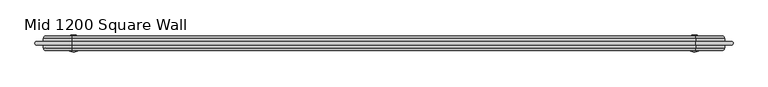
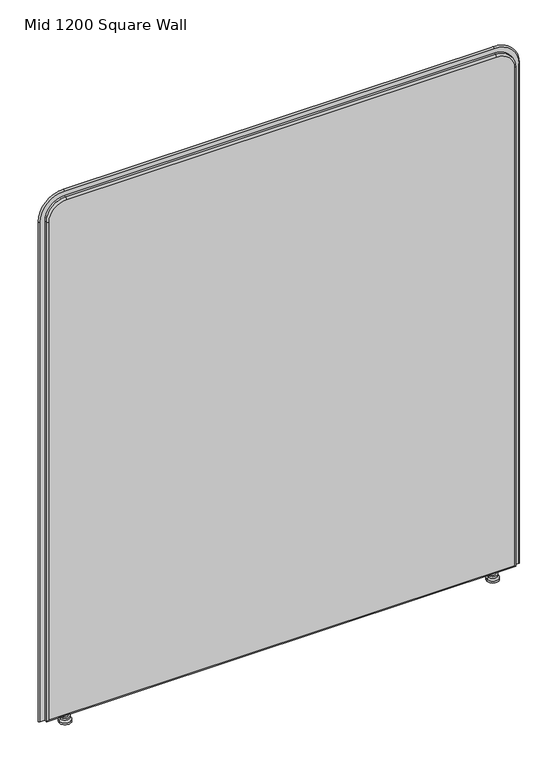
"""IFC4 building model written with IfcOpenShell, lengths in millimetres: furniture geometry, DBLTD_Sixteen3_PrivacyScreens_Artus_Square : Mid 1200 Square Wall."""

import ifcopenshell
import ifcopenshell.guid

model = None  # the IFC model being written
_history = None  # IfcOwnerHistory: only IFC2X3 demands one
_inside = {}  # id of a spatial element -> (the spatial element, [elements in it])
_under = {}  # id of a project, library or spatial element -> (it, [spatial elements below it])
_declared = {}  # id of a project -> (the project, [libraries it declares])
_typed = {}  # id of a type object -> (the type object, [elements of that type])
_made_of = {}  # id of a material, layer set ... -> (it, [elements and type objects made of it])


def new_model(schema):
    """Start an empty IFC model of exactly this schema.

    Asked for "IFC4X3", IfcOpenShell would pick the latest addendum, in which some entities
    have other attributes; the version numbers below select the first issue.
    IFC2X3 requires an IfcOwnerHistory on every rooted entity: one is made here for all.
    """
    global model, _history
    if schema == "IFC4X3":
        model = ifcopenshell.file(schema_version=(4, 3, 0, 0))
    else:
        model = ifcopenshell.file(schema=schema)
    _inside.clear()
    _under.clear()
    _declared.clear()
    _typed.clear()
    _made_of.clear()
    _history = None
    if model.schema == "IFC2X3":
        org = make("IfcOrganization", Name="unknown")
        user = make(
            "IfcPersonAndOrganization",
            ThePerson=make("IfcPerson", FamilyName="unknown"),
            TheOrganization=org,
        )
        app = make(
            "IfcApplication",
            ApplicationDeveloper=org,
            Version="unknown",
            ApplicationFullName="unknown",
            ApplicationIdentifier="unknown",
        )
        _history = make(
            "IfcOwnerHistory",
            OwningUser=user,
            OwningApplication=app,
            ChangeAction="ADDED",
            CreationDate=0,
        )
    return model


def make(cls, **values):
    """One entity of the class cls with the attributes given. An attribute that is None is left unset."""
    return model.create_entity(
        cls, **{name: value for name, value in values.items() if value is not None}
    )


def rooted(cls, **values):
    """An entity with a GlobalId (a new one), such as an element, a storey or a relation."""
    return make(cls, GlobalId=ifcopenshell.guid.new(), OwnerHistory=_history, **values)


def si_unit(unit_type, name, prefix=None):
    """IfcSIUnit, for example si_unit("LENGTHUNIT", "METRE", prefix="MILLI")."""
    return make("IfcSIUnit", UnitType=unit_type, Prefix=prefix, Name=name)


def assignment(units):
    """IfcUnitAssignment: the units of a project."""
    return None if units is None else make("IfcUnitAssignment", Units=units)


def point(xyz):
    """IfcCartesianPoint."""
    return None if xyz is None else make("IfcCartesianPoint", Coordinates=xyz)


def direction(xyz):
    """IfcDirection."""
    return None if xyz is None else make("IfcDirection", DirectionRatios=xyz)


def frame(location, z_axis=None, x_axis=None):
    """IfcAxis2Placement3D, a coordinate frame: its origin and axes. An axis left out is left unset."""
    return make(
        "IfcAxis2Placement3D",
        Location=point(location),
        Axis=direction(z_axis),
        RefDirection=direction(x_axis),
    )


def origin():
    """The frame at (0, 0, 0) with its axes left unset."""
    return frame((0.0, 0.0, 0.0))


def place(relative_to, where):
    """IfcLocalPlacement: puts the frame where relative to a parent placement (None: the world)."""
    return make(
        "IfcLocalPlacement", PlacementRelTo=relative_to, RelativePlacement=where
    )


def context(
    kind, dimensions, precision=None, world=None, true_north=None, identifier=None
):
    """IfcGeometricRepresentationContext, for example the 3D "Model" context."""
    return make(
        "IfcGeometricRepresentationContext",
        ContextIdentifier=identifier,
        ContextType=kind,
        CoordinateSpaceDimension=dimensions,
        Precision=precision,
        WorldCoordinateSystem=world,
        TrueNorth=true_north,
    )


def project(units=None, contexts=None):
    """IfcProject with its units and contexts."""
    return rooted(
        "IfcProject",
        Name="project",
        RepresentationContexts=contexts,
        UnitsInContext=assignment(units),
    )


def spatial(cls, under=None, at=None, **own):
    """A site, building, storey or space (cls), placed at a placement, below another one or the project."""
    s = rooted(cls, ObjectPlacement=at, **own)
    if under is not None:
        _under.setdefault(under.id(), (under, []))[1].append(s)
    return s


def polyline(points):
    """IfcPolyline through the points."""
    return make("IfcPolyline", Points=[point(p) for p in points])


def circle_curve(where, radius):
    """IfcCircle in the frame where."""
    return make("IfcCircle", Position=where, Radius=radius)


def ellipse_curve(where, semi_axis1, semi_axis2):
    """IfcEllipse in the frame where."""
    return make(
        "IfcEllipse", Position=where, SemiAxis1=semi_axis1, SemiAxis2=semi_axis2
    )


def trimmed(basis, trim1, trim2, sense, master):
    """IfcTrimmedCurve: the piece of a basis curve between two trims."""
    return make(
        "IfcTrimmedCurve",
        BasisCurve=basis,
        Trim1=trim1,
        Trim2=trim2,
        SenseAgreement=sense,
        MasterRepresentation=master,
    )


def shape(context_of_items, identifier, shape_type, items):
    """IfcShapeRepresentation: the items that make up one representation, for example the "Body"."""
    return make(
        "IfcShapeRepresentation",
        ContextOfItems=context_of_items,
        RepresentationIdentifier=identifier,
        RepresentationType=shape_type,
        Items=items,
    )


def source(mapping_origin, context_of_items, identifier, shape_type, items):
    """IfcRepresentationMap: a shape defined once, which mapped items show again and again."""
    return make(
        "IfcRepresentationMap",
        MappingOrigin=mapping_origin,
        MappedRepresentation=shape(context_of_items, identifier, shape_type, items),
    )


def transform(
    local_origin,
    x_axis=None,
    y_axis=None,
    z_axis=None,
    scale=None,
    scale2=None,
    scale3=None,
    uniform=True,
):
    """IfcCartesianTransformationOperator3D, or its non-uniform kind. x_axis, y_axis, z_axis: its Axis1, 2, 3."""
    if uniform:
        return make(
            "IfcCartesianTransformationOperator3D",
            Axis1=direction(x_axis),
            Axis2=direction(y_axis),
            LocalOrigin=point(local_origin),
            Scale=scale,
            Axis3=direction(z_axis),
        )
    return make(
        "IfcCartesianTransformationOperator3DnonUniform",
        Axis1=direction(x_axis),
        Axis2=direction(y_axis),
        LocalOrigin=point(local_origin),
        Scale=scale,
        Axis3=direction(z_axis),
        Scale2=scale2,
        Scale3=scale3,
    )


def mapped(mapping_source, mapping_target):
    """IfcMappedItem: shows the shape of a source again, moved by a transform."""
    return make(
        "IfcMappedItem", MappingSource=mapping_source, MappingTarget=mapping_target
    )


def made_of(thing, what):
    """Note that an element or type object is made of a material, layer set ...; save() writes the relation."""
    if what is not None:
        _made_of.setdefault(what.id(), (what, []))[1].append(thing)
    return thing


def element(
    cls,
    number,
    at=None,
    inside=None,
    cuts=None,
    type_object=None,
    material=None,
    context=None,
    identifier="Body",
    shape_type=None,
    held_by="IfcProductDefinitionShape",
    body=None,
    shapes=None,
    **own,
):
    """One element of the class cls, such as IfcWall. Its Tag is "e" and its number.

    at: its placement. inside: the storey or other place that contains it. cuts: it is an
    opening in that element (IfcRelVoidsElement). A single representation is given by context,
    identifier, shape_type and body (its items); several are given by shapes. held_by: the class
    of the entity that holds the representations. save() writes the other relations.
    """
    e = rooted(cls, Tag="e%d" % number, ObjectPlacement=at, **own)
    if body is not None:
        shapes = [shape(context, identifier, shape_type, body)]
    if shapes is not None:
        e.Representation = make(held_by, Representations=shapes)
    if inside is not None:
        _inside.setdefault(inside.id(), (inside, []))[1].append(e)
    if cuts is not None:
        rooted(
            "IfcRelVoidsElement", RelatingBuildingElement=cuts, RelatedOpeningElement=e
        )
    if type_object is not None:
        _typed.setdefault(type_object.id(), (type_object, []))[1].append(e)
    return made_of(e, material)


def aggregate(whole, parts):
    """IfcRelAggregates: a whole, such as a stair, and the parts it consists of."""
    return rooted("IfcRelAggregates", RelatingObject=whole, RelatedObjects=parts)


def save(model, path):
    """Write the relations noted so far, then the file.

    IfcRelAggregates (storeys below a building ...), IfcRelContainedInSpatialStructure (elements
    in a storey), IfcRelDefinesByType, IfcRelAssociatesMaterial and IfcRelDeclares: one each for
    every whole, place, type object, material and project.
    """
    for whole, parts in _under.values():
        aggregate(whole, parts)
    for where, things in _inside.values():
        rooted(
            "IfcRelContainedInSpatialStructure",
            RelatedElements=things,
            RelatingStructure=where,
        )
    for kind, things in _typed.values():
        rooted("IfcRelDefinesByType", RelatedObjects=things, RelatingType=kind)
    for what, things in _made_of.values():
        rooted("IfcRelAssociatesMaterial", RelatedObjects=things, RelatingMaterial=what)
    for by, libraries in _declared.values():
        rooted("IfcRelDeclares", RelatingContext=by, RelatedDefinitions=libraries)
    model.write(path)


def plane_surface(at):
    """IfcPlane: the flat surface through the origin of the frame at, square to its z axis."""
    return make("IfcPlane", Position=at)


def cylinder_surface(at, radius):
    """IfcCylindricalSurface: all points at the distance radius from the z axis of the frame at."""
    return make("IfcCylindricalSurface", Position=at, Radius=radius)


def revolved_surface(curve, axis_point, axis_direction):
    """IfcSurfaceOfRevolution: the curve turned about the line through axis_point along axis_direction."""
    return make(
        "IfcSurfaceOfRevolution",
        SweptCurve=make("IfcArbitraryOpenProfileDef", ProfileType="CURVE", Curve=curve),
        AxisPosition=make("IfcAxis1Placement", Location=point(axis_point), Axis=direction(axis_direction)),
    )


def advanced_brep(points, edges, surfaces, faces):
    """IfcAdvancedBrep: a solid bounded by faces that lie on surfaces and meet in shared edges.

    An edge is (start, end): straight between two places in points (the first is 0);
    or (start, end, curve); or (start, end, curve, False) where it runs against its curve.
    A face is (place in surfaces, loops), or (place, loops, False) where it looks against
    its surface's normal. A loop lists edges by number (the first is 1), with a minus sign
    where the edge is run from its end to its start. The first loop is the outer one.
    """
    corners = [point(p) for p in points]
    vertices = [make("IfcVertexPoint", VertexGeometry=c) for c in corners]
    made = []
    for start, end, *more in edges:
        made.append(
            make(
                "IfcEdgeCurve",
                EdgeStart=vertices[start],
                EdgeEnd=vertices[end],
                EdgeGeometry=more[0] if more else make("IfcPolyline", Points=[corners[start], corners[end]]),
                SameSense=more[1] if len(more) > 1 else True,
            )
        )
    hull = []
    for where, loops, *sense in faces:
        bounds = []
        for j, loop in enumerate(loops):
            ring = [make("IfcOrientedEdge", EdgeElement=made[abs(k) - 1], Orientation=k > 0) for k in loop]
            bounds.append(
                make(
                    "IfcFaceOuterBound" if j == 0 else "IfcFaceBound",
                    Bound=make("IfcEdgeLoop", EdgeList=ring),
                    Orientation=True,
                )
            )
        hull.append(make("IfcAdvancedFace", Bounds=bounds, FaceSurface=surfaces[where], SameSense=sense[0] if sense else True))
    return make("IfcAdvancedBrep", Outer=make("IfcClosedShell", CfsFaces=hull))


def mid_1200_square_wall_a06490c5(model_context):
    return source(origin(), model_context, "Body", "AdvancedBrep", [
        advanced_brep(
        [(542.2938623, 820.0, 22.0), (549.2938623, 820.0, 22.0), (535.2938623, 820.0, 22.0), (549.2938623, 820.0, 15.0), (535.2938623, 820.0, 15.0), (553.744562, 820.0, 15.0), (530.8431626, 820.0, 15.0), (553.744562, 820.0, 10.0), (530.8431626, 820.0, 10.0), (557.2938623, 820.0, 5.0), (527.2938623, 820.0, 5.0), (557.2938623, 820.0, 0.0), (527.2938623, 820.0, 0.0), (542.2938623, 820.0, 0.0)],
        [
            (0, 1),
            (1, 2, circle_curve(frame((542.2938623, 820.0, 22.0), z_axis=(0.0, 0.0, 1.0), x_axis=(1.0, 0.0, 0.0)), 7.0)),
            (2, 0),
            (2, 1, circle_curve(frame((542.2938623, 820.0, 22.0), z_axis=(0.0, 0.0, 1.0), x_axis=(1.0, 0.0, 0.0)), 7.0)),
            (1, 3),
            (3, 4, circle_curve(frame((542.2938623, 820.0, 15.0), z_axis=(0.0, 0.0, 1.0), x_axis=(1.0, 0.0, 0.0)), 7.0)),
            (4, 2),
            (4, 3, circle_curve(frame((542.2938623, 820.0, 15.0), z_axis=(0.0, 0.0, 1.0), x_axis=(1.0, 0.0, 0.0)), 7.0)),
            (3, 5),
            (5, 6, circle_curve(frame((542.2938623, 820.0, 15.0), z_axis=(0.0, 0.0, 1.0), x_axis=(1.0, 0.0, 0.0)), 11.4506997)),
            (6, 4),
            (6, 5, circle_curve(frame((542.2938623, 820.0, 15.0), z_axis=(0.0, 0.0, 1.0), x_axis=(1.0, 0.0, 0.0)), 11.4506997)),
            (5, 7),
            (7, 8, circle_curve(frame((542.2938623, 820.0, 10.0), z_axis=(0.0, 0.0, 1.0), x_axis=(1.0, 0.0, 0.0)), 11.4506997)),
            (8, 6),
            (8, 7, circle_curve(frame((542.2938623, 820.0, 10.0), z_axis=(0.0, 0.0, 1.0), x_axis=(1.0, 0.0, 0.0)), 11.4506997)),
            (7, 9),
            (9, 10, circle_curve(frame((542.2938623, 820.0, 5.0), z_axis=(0.0, 0.0, 1.0), x_axis=(1.0, 0.0, 0.0)), 15.0)),
            (10, 8),
            (10, 9, circle_curve(frame((542.2938623, 820.0, 5.0), z_axis=(0.0, 0.0, 1.0), x_axis=(1.0, 0.0, 0.0)), 15.0)),
            (9, 11),
            (11, 12, circle_curve(frame((542.2938623, 820.0, 0.0), z_axis=(0.0, 0.0, 1.0), x_axis=(1.0, 0.0, 0.0)), 15.0)),
            (12, 10),
            (12, 11, circle_curve(frame((542.2938623, 820.0, 0.0), z_axis=(0.0, 0.0, 1.0), x_axis=(1.0, 0.0, 0.0)), 15.0)),
            (11, 13),
            (13, 12),
        ],
        [
            plane_surface(frame((542.2938623, 820.0, 22.0), z_axis=(0.0, 0.0, 1.0), x_axis=(1.0, 0.0, 0.0))),
            cylinder_surface(frame((542.2938623, 820.0, 5.0), z_axis=(0.0, 0.0, 1.0), x_axis=(1.0, 0.0, 0.0)), 7.0),
            plane_surface(frame((542.2938623, 820.0, 15.0), z_axis=(0.0, 0.0, 1.0), x_axis=(1.0, 0.0, 0.0))),
            cylinder_surface(frame((542.2938623, 820.0, 5.0), z_axis=(0.0, 0.0, 1.0), x_axis=(1.0, 0.0, 0.0)), 11.4506997),
            revolved_surface(polyline([(557.2938623, 820.0, 5.0), (553.744562, 820.0, 10.0)]), (542.2938623, 820.0, 5.0), (0.0, 0.0, 1.0)),
            cylinder_surface(frame((542.2938623, 820.0, 5.0), z_axis=(0.0, 0.0, 1.0), x_axis=(1.0, 0.0, 0.0)), 15.0),
            plane_surface(frame((542.2938623, 820.0, 0.0), z_axis=(0.0, 0.0, -1.0), x_axis=(1.0, 0.0, 0.0))),
        ],
        [
            (0, [[1, 2, 3]]),
            (0, [[-3, 4, -1]]),
            (1, [[-2, 5, 6, 7]]),
            (1, [[-4, -7, 8, -5]]),
            (2, [[-6, 9, 10, 11]]),
            (2, [[-8, -11, 12, -9]]),
            (3, [[-10, 13, 14, 15]]),
            (3, [[-12, -15, 16, -13]]),
            (4, [[-14, 17, 18, 19]]),
            (4, [[-16, -19, 20, -17]]),
            (5, [[-18, 21, 22, 23]]),
            (5, [[-20, -23, 24, -21]]),
            (6, [[-22, 25, 26]]),
            (6, [[-24, -26, -25]]),
        ],
    ),
        advanced_brep(
        [(-535.2938623, 820.0, 22.0), (-549.2938623, 820.0, 22.0), (-542.2938623, 820.0, 22.0), (-535.2938623, 820.0, 15.0), (-549.2938623, 820.0, 15.0), (-530.8431626, 820.0, 15.0), (-553.744562, 820.0, 15.0), (-530.8431626, 820.0, 10.0), (-553.744562, 820.0, 10.0), (-527.2938623, 820.0, 5.0), (-557.2938623, 820.0, 5.0), (-527.2938623, 820.0, 0.0), (-557.2938623, 820.0, 0.0), (-542.2938623, 820.0, 0.0)],
        [
            (0, 1, circle_curve(frame((-542.2938623, 820.0, 22.0), z_axis=(0.0, 0.0, 1.0), x_axis=(-1.0, 0.0, 0.0)), 7.0)),
            (1, 2),
            (2, 0),
            (1, 0, circle_curve(frame((-542.2938623, 820.0, 22.0), z_axis=(0.0, 0.0, 1.0), x_axis=(-1.0, 0.0, 0.0)), 7.0)),
            (3, 4, circle_curve(frame((-542.2938623, 820.0, 15.0), z_axis=(0.0, 0.0, 1.0), x_axis=(-1.0, 0.0, 0.0)), 7.0)),
            (4, 1),
            (0, 3),
            (4, 3, circle_curve(frame((-542.2938623, 820.0, 15.0), z_axis=(0.0, 0.0, 1.0), x_axis=(-1.0, 0.0, 0.0)), 7.0)),
            (5, 6, circle_curve(frame((-542.2938623, 820.0, 15.0), z_axis=(0.0, 0.0, 1.0), x_axis=(-1.0, 0.0, 0.0)), 11.4506997)),
            (6, 4),
            (3, 5),
            (6, 5, circle_curve(frame((-542.2938623, 820.0, 15.0), z_axis=(0.0, 0.0, 1.0), x_axis=(-1.0, 0.0, 0.0)), 11.4506997)),
            (7, 8, circle_curve(frame((-542.2938623, 820.0, 10.0), z_axis=(0.0, 0.0, 1.0), x_axis=(-1.0, 0.0, 0.0)), 11.4506997)),
            (8, 6),
            (5, 7),
            (8, 7, circle_curve(frame((-542.2938623, 820.0, 10.0), z_axis=(0.0, 0.0, 1.0), x_axis=(-1.0, 0.0, 0.0)), 11.4506997)),
            (9, 10, circle_curve(frame((-542.2938623, 820.0, 5.0), z_axis=(0.0, 0.0, 1.0), x_axis=(-1.0, 0.0, 0.0)), 15.0)),
            (10, 8),
            (7, 9),
            (10, 9, circle_curve(frame((-542.2938623, 820.0, 5.0), z_axis=(0.0, 0.0, 1.0), x_axis=(-1.0, 0.0, 0.0)), 15.0)),
            (11, 12, circle_curve(frame((-542.2938623, 820.0, 0.0), z_axis=(0.0, 0.0, 1.0), x_axis=(-1.0, 0.0, 0.0)), 15.0)),
            (12, 10),
            (9, 11),
            (12, 11, circle_curve(frame((-542.2938623, 820.0, 0.0), z_axis=(0.0, 0.0, 1.0), x_axis=(-1.0, 0.0, 0.0)), 15.0)),
            (13, 12),
            (11, 13),
        ],
        [
            plane_surface(frame((-542.2938623, 820.0, 22.0), z_axis=(0.0, 0.0, 1.0), x_axis=(-1.0, 0.0, 0.0))),
            cylinder_surface(frame((-542.2938623, 820.0, 5.0), z_axis=(0.0, 0.0, -1.0), x_axis=(-1.0, 0.0, 0.0)), 7.0),
            plane_surface(frame((-542.2938623, 820.0, 15.0), z_axis=(0.0, 0.0, 1.0), x_axis=(-1.0, 0.0, 0.0))),
            cylinder_surface(frame((-542.2938623, 820.0, 5.0), z_axis=(0.0, 0.0, -1.0), x_axis=(-1.0, 0.0, 0.0)), 11.4506997),
            revolved_surface(polyline([(-553.744562, 820.0, 10.0), (-557.2938623, 820.0, 5.0)]), (-542.2938623, 820.0, 5.0), (0.0, 0.0, -1.0)),
            cylinder_surface(frame((-542.2938623, 820.0, 5.0), z_axis=(0.0, 0.0, -1.0), x_axis=(-1.0, 0.0, 0.0)), 15.0),
            plane_surface(frame((-542.2938623, 820.0, 0.0), z_axis=(0.0, 0.0, -1.0), x_axis=(-1.0, 0.0, 0.0))),
        ],
        [
            (0, [[1, 2, 3]]),
            (0, [[4, -3, -2]]),
            (1, [[5, 6, -1, 7]]),
            (1, [[8, -7, -4, -6]]),
            (2, [[9, 10, -5, 11]]),
            (2, [[12, -11, -8, -10]]),
            (3, [[13, 14, -9, 15]]),
            (3, [[16, -15, -12, -14]]),
            (4, [[17, 18, -13, 19]]),
            (4, [[20, -19, -16, -18]]),
            (5, [[21, 22, -17, 23]]),
            (5, [[24, -23, -20, -22]]),
            (6, [[25, -21, 26]]),
            (6, [[-26, -24, -25]]),
        ],
    ),
        advanced_brep(
        [(-590.0, 807.0, 27.0), (590.0, 807.0, 27.0), (590.0, 807.0, 1360.0), (545.0, 807.0, 1405.0), (-545.0, 807.0, 1405.0), (-590.0, 807.0, 1360.0), (590.0, 833.0, 27.0), (-590.0, 833.0, 27.0), (-590.0, 833.0, 1360.0), (-545.0, 833.0, 1405.0), (545.0, 833.0, 1405.0), (590.0, 833.0, 1360.0), (545.0, 811.9999948, 1410.0), (545.0, 828.0, 1410.0), (-545.0, 828.0, 1410.0), (-545.0, 812.0, 1410.0), (-595.0, 828.0, 1360.0), (-595.0, 811.9999935, 1360.0), (-595.0, 828.0, 22.0), (-595.0, 812.0, 22.0), (595.0, 828.0, 22.0), (595.0, 812.0, 22.0), (595.0, 828.0, 1360.0), (595.0, 812.0, 1360.0)],
        [
            (0, 1),
            (1, 2),
            (2, 3, circle_curve(frame((545.0, 807.0, 1360.0), z_axis=(0.0, -1.0, 0.0), x_axis=(1.0, 0.0, 0.0)), 45.0)),
            (3, 4),
            (4, 5, circle_curve(frame((-545.0, 807.0, 1360.0), z_axis=(0.0, -1.0, 0.0), x_axis=(0.0, 0.0, 1.0)), 45.0)),
            (5, 0),
            (6, 7),
            (7, 8),
            (8, 9, circle_curve(frame((-545.0, 833.0, 1360.0), z_axis=(0.0, 1.0, 0.0), x_axis=(0.0, 0.0, 1.0)), 45.0)),
            (9, 10),
            (10, 11, circle_curve(frame((545.0, 833.0, 1360.0), z_axis=(0.0, 1.0, 0.0), x_axis=(1.0, 0.0, 0.0)), 45.0)),
            (11, 6),
            (12, 13),
            (13, 14),
            (14, 15),
            (15, 12),
            (14, 16, circle_curve(frame((-545.0, 828.0, 1360.0), z_axis=(0.0, -1.0, 0.0), x_axis=(1.0, 0.0, 0.0)), 50.0)),
            (16, 17),
            (17, 15, circle_curve(frame((-545.0, 812.0, 1360.0), z_axis=(0.0, 1.0, 0.0), x_axis=(1.0, 0.0, 0.0)), 50.0)),
            (16, 18),
            (18, 19),
            (19, 17),
            (18, 20),
            (20, 21),
            (21, 19),
            (20, 22),
            (22, 23),
            (23, 21),
            (12, 23, circle_curve(frame((545.0, 812.0, 1360.0), z_axis=(0.0, 1.0, 0.0), x_axis=(1.0, 0.0, 0.0)), 50.0)),
            (22, 13, circle_curve(frame((545.0, 828.0, 1360.0), z_axis=(0.0, -1.0, 0.0), x_axis=(1.0, 0.0, 0.0)), 50.0)),
            (21, 1, ellipse_curve(frame((590.0, 812.0, 27.0), z_axis=(-0.7071067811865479, 0.0, -0.707106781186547), x_axis=(0.7071067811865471, 0.0, -0.7071067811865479)), 7.0710678, 5.0)),
            (0, 19, ellipse_curve(frame((-590.0, 812.0, 27.0), z_axis=(0.7071067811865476, 0.0, -0.7071067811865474), x_axis=(0.7071067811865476, 0.0, 0.7071067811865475)), 7.0710678, 5.0)),
            (6, 20, ellipse_curve(frame((590.0, 828.0, 27.0), z_axis=(-0.7071067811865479, 0.0, -0.707106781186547), x_axis=(0.7071067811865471, 0.0, -0.7071067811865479)), 7.0710678, 5.0)),
            (18, 7, ellipse_curve(frame((-590.0, 828.0, 27.0), z_axis=(0.7071067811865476, 0.0, -0.7071067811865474), x_axis=(0.7071067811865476, 0.0, 0.7071067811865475)), 7.0710678, 5.0)),
            (23, 2, circle_curve(frame((590.0, 812.0, 1360.0), z_axis=(0.0, 0.0, -1.0), x_axis=(1.0, 0.0, 0.0)), 5.0)),
            (11, 22, circle_curve(frame((590.0, 828.0, 1360.0), z_axis=(0.0, 0.0, -1.0), x_axis=(1.0, 0.0, 0.0)), 5.0)),
            (12, 3, circle_curve(frame((545.0, 812.0, 1405.0), z_axis=(1.0, 0.0, 0.0), x_axis=(0.0, 0.0, 1.0)), 5.0)),
            (10, 13, circle_curve(frame((545.0, 828.0, 1405.0), z_axis=(1.0, 0.0, 0.0), x_axis=(0.0, 0.0, 1.0)), 5.0)),
            (15, 4, circle_curve(frame((-545.0, 812.0, 1405.0), z_axis=(1.0, 0.0, 0.0), x_axis=(0.0, 0.0, 1.0)), 5.0)),
            (9, 14, circle_curve(frame((-545.0, 828.0, 1405.0), z_axis=(1.0, 0.0, 0.0), x_axis=(0.0, 0.0, 1.0)), 5.0)),
            (17, 5, circle_curve(frame((-590.0, 812.0, 1360.0), z_axis=(0.0, 0.0, 1.0), x_axis=(-1.0, 0.0, 0.0)), 5.0)),
            (8, 16, circle_curve(frame((-590.0, 828.0, 1360.0), z_axis=(0.0, 0.0, 1.0), x_axis=(-1.0, 0.0, 0.0)), 5.0)),
        ],
        [
            plane_surface(frame((-545.0, 807.0, 1410.0), z_axis=(0.0, -1.0, 0.0), x_axis=(-1.0, 0.0, 0.0))),
            plane_surface(frame((-545.0, 833.0, 1410.0), z_axis=(0.0, 1.0, 0.0), x_axis=(1.0, 0.0, 0.0))),
            plane_surface(frame((545.0, 807.0, 1410.0), z_axis=(0.0, 0.0, 1.0), x_axis=(0.0, 1.0, 0.0))),
            cylinder_surface(frame((-545.0, 833.0, 1360.0), z_axis=(0.0, -1.0, 0.0), x_axis=(1.0, 0.0, 0.0)), 50.0),
            plane_surface(frame((-595.0, 807.0, 1360.0), z_axis=(-1.0, 0.0, 0.0), x_axis=(0.0, 1.0, 0.0))),
            plane_surface(frame((-595.0, 807.0, 22.0), z_axis=(0.0, 0.0, -1.0), x_axis=(0.0, 1.0, 0.0))),
            plane_surface(frame((595.0, 807.0, 22.0), z_axis=(1.0, 0.0, 0.0), x_axis=(0.0, 1.0, 0.0))),
            cylinder_surface(frame((545.0, 833.0, 1360.0), z_axis=(0.0, -1.0, 0.0), x_axis=(1.0, 0.0, 0.0)), 50.0),
            cylinder_surface(frame((-595.0, 812.0, 27.0), z_axis=(1.0, 0.0, 0.0), x_axis=(0.0, 0.0, -1.0)), 5.0),
            cylinder_surface(frame((-595.0, 828.0, 27.0), z_axis=(1.0, 0.0, 0.0), x_axis=(0.0, 0.0, -1.0)), 5.0),
            cylinder_surface(frame((590.0, 812.0, 22.0), z_axis=(0.0, 0.0, 1.0), x_axis=(1.0, 0.0, 0.0)), 5.0),
            cylinder_surface(frame((590.0, 828.0, 22.0), z_axis=(0.0, 0.0, 1.0), x_axis=(1.0, 0.0, 0.0)), 5.0),
            revolved_surface(trimmed(ellipse_curve(frame((590.0, 812.0, 1360.0), z_axis=(0.0, 0.0, -1.0), x_axis=(1.0, 0.0, 0.0)), 5.0, 5.0), [point((595.0, 812.0, 1360.0))], [point((590.0, 807.0, 1360.0))], True, "CARTESIAN"), (545.0, 807.0, 1360.0), (0.0, -1.0, 0.0)),
            revolved_surface(trimmed(ellipse_curve(frame((590.0, 828.0, 1360.0), z_axis=(0.0, 0.0, -1.0), x_axis=(1.0, 0.0, 0.0)), 5.0, 5.0), [point((590.0, 833.0, 1360.0))], [point((595.0, 828.0, 1360.0))], True, "CARTESIAN"), (545.0, 807.0, 1360.0), (0.0, -1.0, 0.0)),
            cylinder_surface(frame((545.0, 812.0, 1405.0), z_axis=(-1.0, 0.0, 0.0), x_axis=(0.0, 0.0, 1.0)), 5.0),
            cylinder_surface(frame((545.0, 828.0, 1405.0), z_axis=(-1.0, 0.0, 0.0), x_axis=(0.0, 0.0, 1.0)), 5.0),
            revolved_surface(trimmed(ellipse_curve(frame((-545.0, 812.0, 1405.0), z_axis=(1.0, 0.0, 0.0), x_axis=(0.0, 0.0, 1.0)), 5.0, 5.0), [point((-545.0, 812.0, 1410.0))], [point((-545.0, 807.0, 1405.0))], True, "CARTESIAN"), (-545.0, 807.0, 1360.0), (0.0, -1.0, 0.0)),
            revolved_surface(trimmed(ellipse_curve(frame((-545.0, 828.0, 1405.0), z_axis=(1.0, 0.0, 0.0), x_axis=(0.0, 0.0, 1.0)), 5.0, 5.0), [point((-545.0, 833.0, 1405.0))], [point((-545.0, 828.0, 1410.0))], True, "CARTESIAN"), (-545.0, 807.0, 1360.0), (0.0, -1.0, 0.0)),
            cylinder_surface(frame((-590.0, 812.0, 1360.0), z_axis=(0.0, 0.0, -1.0), x_axis=(-1.0, 0.0, 0.0)), 5.0),
            cylinder_surface(frame((-590.0, 828.0, 1360.0), z_axis=(0.0, 0.0, -1.0), x_axis=(-1.0, 0.0, 0.0)), 5.0),
        ],
        [
            (0, [[1, 2, 3, 4, 5, 6]]),
            (1, [[7, 8, 9, 10, 11, 12]]),
            (2, [[13, 14, 15, 16]]),
            (3, [[-15, 17, 18, 19]]),
            (4, [[-18, 20, 21, 22]]),
            (5, [[-21, 23, 24, 25]]),
            (6, [[-24, 26, 27, 28]]),
            (7, [[-13, 29, -27, 30]]),
            (8, [[31, -1, 32, -25]]),
            (9, [[33, -23, 34, -7]]),
            (10, [[-31, -28, 35, -2]]),
            (11, [[-33, -12, 36, -26]]),
            (12, [[-35, -29, 37, -3]]),
            (13, [[-36, -11, 38, -30]]),
            (14, [[-37, -16, 39, -4]]),
            (15, [[-38, -10, 40, -14]]),
            (16, [[-39, -19, 41, -5]]),
            (17, [[-40, -9, 42, -17]]),
            (18, [[-32, -6, -41, -22]]),
            (19, [[-34, -20, -42, -8]]),
        ],
    ),
        advanced_brep(
        [(606.9577057, 823.0, 22.0), (606.9577057, 817.0, 22.0), (595.0, 817.0, 22.0), (595.0, 823.0, 22.0), (606.9577057, 823.0, 1360.0), (606.9577057, 817.0, 1360.0), (545.0, 817.0, 1421.9577057), (-545.0, 817.0, 1421.9577057), (-606.9577057, 817.0, 1360.0), (-606.9577057, 817.0, 22.0), (-595.0, 817.0, 22.0), (-595.0, 817.0, 1360.0), (-545.0, 817.0, 1410.0), (545.0, 817.0, 1410.0), (595.0, 817.0, 1360.0), (595.0, 823.0, 1360.0), (545.0, 823.0, 1410.0), (-545.0, 823.0, 1410.0), (-595.0, 823.0, 1360.0), (-595.0, 823.0, 22.0), (-606.9577057, 823.0, 22.0), (-606.9577057, 823.0, 1360.0), (-545.0, 823.0, 1421.9577057), (545.0, 823.0, 1421.9577057)],
        [
            (0, 1, circle_curve(frame((606.9577057, 820.0, 22.0), z_axis=(0.0, 0.0, -1.0), x_axis=(1.0, 0.0, 0.0)), 3.0)),
            (1, 2),
            (2, 3),
            (3, 0),
            (0, 4),
            (4, 5, circle_curve(frame((606.9577057, 820.0, 1360.0), z_axis=(0.0, 0.0, -1.0), x_axis=(1.0, 0.0, 0.0)), 3.0)),
            (5, 1),
            (5, 6, circle_curve(frame((545.0, 817.0, 1360.0), z_axis=(0.0, -1.0, 0.0), x_axis=(1.0, 0.0, 0.0)), 61.9577057)),
            (6, 7),
            (7, 8, circle_curve(frame((-545.0, 817.0, 1360.0), z_axis=(0.0, -1.0, 0.0), x_axis=(0.0, 0.0, 1.0)), 61.9577057)),
            (8, 9),
            (9, 10),
            (10, 11),
            (11, 12, circle_curve(frame((-545.0, 817.0, 1360.0), z_axis=(0.0, 1.0, 0.0), x_axis=(0.0, 0.0, 1.0)), 50.0)),
            (12, 13),
            (13, 14, circle_curve(frame((545.0, 817.0, 1360.0), z_axis=(0.0, 1.0, 0.0), x_axis=(1.0, 0.0, 0.0)), 50.0)),
            (14, 2),
            (14, 15),
            (15, 3),
            (15, 16, circle_curve(frame((545.0, 823.0, 1360.0), z_axis=(0.0, -1.0, 0.0), x_axis=(1.0, 0.0, 0.0)), 50.0)),
            (16, 17),
            (17, 18, circle_curve(frame((-545.0, 823.0, 1360.0), z_axis=(0.0, -1.0, 0.0), x_axis=(0.0, 0.0, 1.0)), 50.0)),
            (18, 19),
            (19, 20),
            (20, 21),
            (21, 22, circle_curve(frame((-545.0, 823.0, 1360.0), z_axis=(0.0, 1.0, 0.0), x_axis=(0.0, 0.0, 1.0)), 61.9577057)),
            (22, 23),
            (23, 4, circle_curve(frame((545.0, 823.0, 1360.0), z_axis=(0.0, 1.0, 0.0), x_axis=(1.0, 0.0, 0.0)), 61.9577057)),
            (23, 6, circle_curve(frame((545.0, 820.0, 1421.9577057), z_axis=(1.0, 0.0, 0.0), x_axis=(0.0, 0.0, 1.0)), 3.0)),
            (13, 16),
            (22, 7, circle_curve(frame((-545.0, 820.0, 1421.9577057), z_axis=(1.0, 0.0, 0.0), x_axis=(0.0, 0.0, 1.0)), 3.0)),
            (12, 17),
            (21, 8, circle_curve(frame((-606.9577057, 820.0, 1360.0), z_axis=(0.0, 0.0, 1.0), x_axis=(-1.0, 0.0, 0.0)), 3.0)),
            (11, 18),
            (19, 10),
            (9, 20, circle_curve(frame((-606.9577057, 820.0, 22.0), z_axis=(0.0, 0.0, -1.0), x_axis=(-1.0, 0.0, 0.0)), 3.0)),
        ],
        [
            plane_surface(frame((595.0, 807.0, 22.0), z_axis=(0.0, 0.0, -1.0), x_axis=(1.0, 0.0, 0.0))),
            cylinder_surface(frame((606.9577057, 820.0, 22.0), z_axis=(0.0, 0.0, -1.0), x_axis=(1.0, 0.0, 0.0)), 3.0),
            plane_surface(frame((606.9577057, 817.0, 22.0), z_axis=(0.0, -1.0, 0.0), x_axis=(0.0, 0.0, 1.0))),
            plane_surface(frame((595.0, 817.0, 22.0), z_axis=(-1.0, 0.0, 0.0), x_axis=(0.0, 0.0, 1.0))),
            plane_surface(frame((595.0, 823.0, 22.0), z_axis=(0.0, 1.0, 0.0), x_axis=(0.0, 0.0, 1.0))),
            revolved_surface(trimmed(ellipse_curve(frame((606.9577057, 820.0, 1360.0), z_axis=(0.0, 0.0, -1.0), x_axis=(1.0, 0.0, 0.0)), 3.0, 3.0), [point((606.9577057, 823.0, 1360.0))], [point((606.9577057, 817.0, 1360.0))], True, "CARTESIAN"), (545.0, 807.0, 1360.0), (0.0, -1.0, 0.0)),
            revolved_surface(polyline([(595.0, 817.0, 1360.0), (595.0, 823.0, 1360.0)]), (545.0, 807.0, 1360.0), (0.0, -1.0, 0.0)),
            cylinder_surface(frame((545.0, 820.0, 1421.9577057), z_axis=(1.0, 0.0, 0.0), x_axis=(0.0, 0.0, 1.0)), 3.0),
            plane_surface(frame((545.0, 817.0, 1410.0), z_axis=(0.0, 0.0, -1.0), x_axis=(-1.0, 0.0, 0.0))),
            revolved_surface(trimmed(ellipse_curve(frame((-545.0, 820.0, 1421.9577057), z_axis=(1.0, 0.0, 0.0), x_axis=(0.0, 0.0, 1.0)), 3.0, 3.0), [point((-545.0, 823.0, 1421.9577057))], [point((-545.0, 817.0, 1421.9577057))], True, "CARTESIAN"), (-545.0, 807.0, 1360.0), (0.0, -1.0, 0.0)),
            revolved_surface(polyline([(-545.0, 817.0, 1410.0), (-545.0, 823.0, 1410.0)]), (-545.0, 807.0, 1360.0), (0.0, -1.0, 0.0)),
            plane_surface(frame((-595.0, 807.0, 22.0), z_axis=(0.0, 0.0, -1.0), x_axis=(-1.0, 0.0, 0.0))),
            cylinder_surface(frame((-606.9577057, 820.0, 1360.0), z_axis=(0.0, 0.0, 1.0), x_axis=(-1.0, 0.0, 0.0)), 3.0),
            plane_surface(frame((-595.0, 817.0, 1360.0), z_axis=(1.0, 0.0, 0.0), x_axis=(0.0, 0.0, -1.0))),
        ],
        [
            (0, [[1, 2, 3, 4]]),
            (1, [[-1, 5, 6, 7]]),
            (2, [[-2, -7, 8, 9, 10, 11, 12, 13, 14, 15, 16, 17]]),
            (3, [[-3, -17, 18, 19]]),
            (4, [[-4, -19, 20, 21, 22, 23, 24, 25, 26, 27, 28, -5]]),
            (5, [[-8, -6, -28, 29]]),
            (6, [[-20, -18, -16, 30]]),
            (7, [[-29, -27, 31, -9]]),
            (8, [[-30, -15, 32, -21]]),
            (9, [[-10, -31, -26, 33]]),
            (10, [[-22, -32, -14, 34]]),
            (11, [[-24, 35, -12, 36]]),
            (12, [[-33, -25, -36, -11]]),
            (13, [[-34, -13, -35, -23]]),
        ],
    ),
    ])


if __name__ == "__main__":
    model = new_model("IFC4")
    model_context = context("Model", 3, world=origin())
    ifc_project = project(units=[si_unit("LENGTHUNIT", "METRE", prefix="MILLI")], contexts=[model_context])
    site = spatial("IfcSite", under=ifc_project)
    building = spatial("IfcBuilding", under=site)
    placement = place(None, origin())
    mid_1200_square_wall_shape = mid_1200_square_wall_a06490c5(model_context)
    element("IfcFurniture", 1, ObjectType="DBLTD_Sixteen3_PrivacyScreens_Artus_Square : Mid 1200 Square Wall", at=placement, inside=building, context=model_context, shape_type="MappedRepresentation", body=[
        mapped(mid_1200_square_wall_shape, transform((0.0, 0.0, 0.0), x_axis=(1.0, 0.0, 0.0), y_axis=(0.0, 1.0, 0.0), z_axis=(0.0, 0.0, 1.0))),
    ])
    save(model, "model.ifc")
